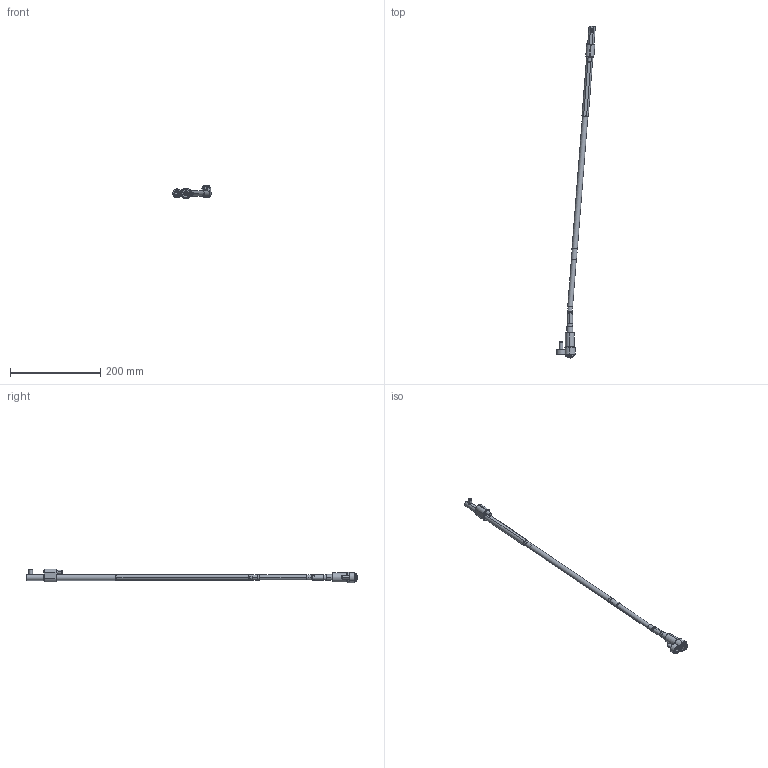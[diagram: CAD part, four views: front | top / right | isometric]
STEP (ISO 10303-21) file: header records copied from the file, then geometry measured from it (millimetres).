
FILE_DESCRIPTION (( 'STEP AP214' ), '1' );
FILE_NAME ('WL120100-EJE 4,5°.STEP', '2021-03-19T15:34:03', ( '' ), ( '' ), 'SwSTEP 2.0', 'SolidWorks 2019', '' );
FILE_SCHEMA (( 'AUTOMOTIVE_DESIGN' ));
Length unit declared in the file: millimetre
Products named in the file (17): Web-WL12-F00.SLDPRT; WL120100-D; Web-WL12-A3; Web-WL12-A1; 9DR2808-TOR; WL120100-B; WL120100-E; Web-WL12-A8; 3IMAN5X3-150_con sellador; 1DIN912820_DIN 912 M8 x 20 --- 20C; WL120100-B1; Web-WL12-XX_ON-WL120100-4,5; Web-WL12-F01; WL120100-EJE 4,5°; 8WL12EJEP; Web-WL12-A2; 1DIN912645_DIN 912 M6 x 45 --- 45C
Assembly tree (16 placements, depth 3):
  WL120100-EJE 4,5°
    Web-WL12-A8
    Web-WL12-XX_ON-WL120100-4,5
    Web-WL12-A3
    Web-WL12-A2
    Web-WL12-A1
    Web-WL12-F00.SLDPRT
      Web-WL12-F01
      1DIN912820_DIN 912 M8 x 20 --- 20C
      1DIN912645_DIN 912 M6 x 45 --- 45C
    WL120100-D
    8WL12EJEP
    WL120100-E
    9DR2808-TOR
    WL120100-B
      WL120100-B1
      3IMAN5X3-150_con sellador
Bounding box: 85.73 x 736.59 x 29.9 mm (x, y, z)
Volume: 113342 mm3; surface area: 49842.4 mm2
Topology: 15 solids, 15 shells, 432 faces, 906 edges, 525 vertices
Faces by surface type: plane 139, cylinder 123, cone 120, torus 50
Entity records: 13661 total; most frequent: DIRECTION 2240, CARTESIAN_POINT 2104, ORIENTED_EDGE 1788, AXIS2_PLACEMENT_3D 929, EDGE_CURVE 894, VERTEX_POINT 525, EDGE_LOOP 477, CIRCLE 476
